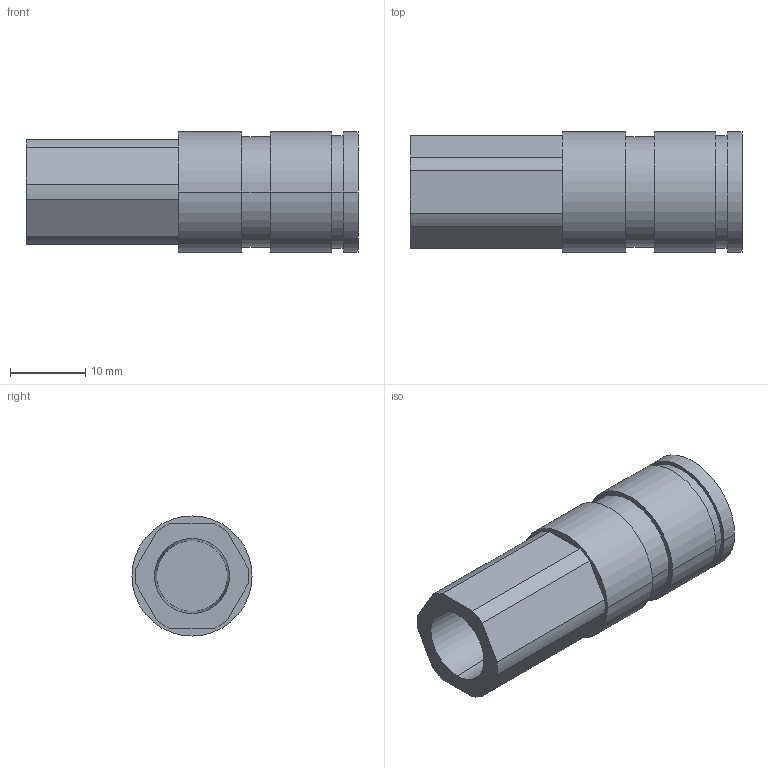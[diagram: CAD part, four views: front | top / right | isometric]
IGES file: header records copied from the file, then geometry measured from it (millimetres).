
Global section: file name: No Iges File Name specified; native system: Autodesk Inventor 2009; preprocessor: AutoDesk Inventor Iges Exporter R2009; author: y-shimohigashi; date: 20080701.112909; units: millimetre
Bounding box: 44.2 x 16 x 16 mm (x, y, z)
Volume: 6233.8 mm3; surface area: 3404.5 mm2
Topology: 1 solids, 1 shells, 35 faces, 78 edges, 52 vertices
Faces by surface type: cylinder 16, plane 15, revolution 4
